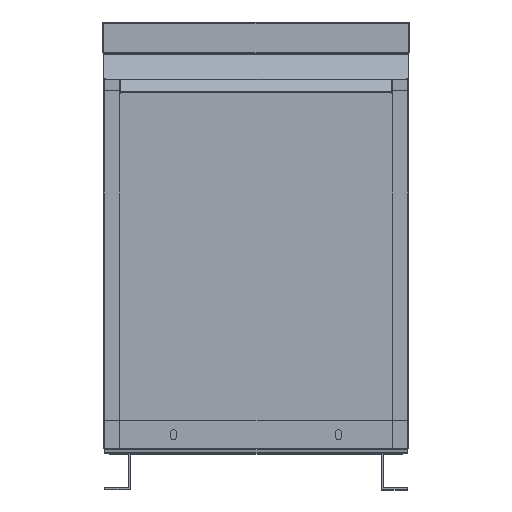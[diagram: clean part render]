
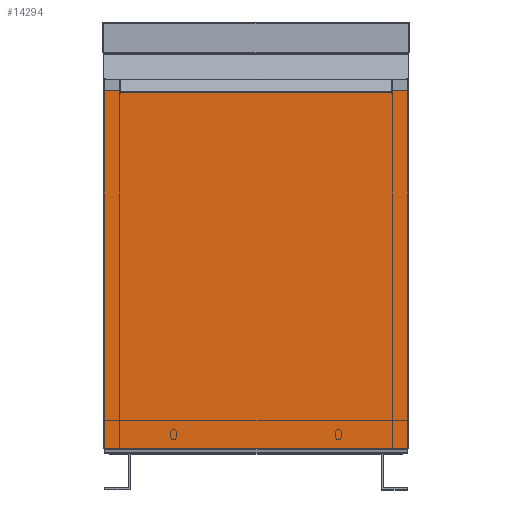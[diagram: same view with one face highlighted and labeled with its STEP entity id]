
A CAD part, top view. The second image highlights one B-rep face of the part: STEP entity #14294.
In plain terms, the highlighted planar face has unit normal (0, 0, 1).
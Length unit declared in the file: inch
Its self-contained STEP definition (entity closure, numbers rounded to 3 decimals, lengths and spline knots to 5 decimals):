
#111 = CARTESIAN_POINT ( 'NONE',  ( 1.165, 26., 0. ) ) ;
#208 = EDGE_CURVE ( 'NONE', #3748, #8722, #5929, .T. ) ;
#388 = CARTESIAN_POINT ( 'NONE',  ( 1.21, 0., 0. ) ) ;
#412 = ORIENTED_EDGE ( 'NONE', *, *, #208, .T. ) ;
#788 = DIRECTION ( 'NONE',  ( 0., 1., 0. ) ) ;
#840 = CARTESIAN_POINT ( 'NONE',  ( 0., 26., 0. ) ) ;
#916 = EDGE_CURVE ( 'NONE', #19650, #21255, #5464, .T. ) ;
#1800 = LINE ( 'NONE', #388, #3933 ) ;
#2226 = CARTESIAN_POINT ( 'NONE',  ( 20.99, 25.87272, 0. ) ) ;
#2668 = LINE ( 'NONE', #10352, #9523 ) ;
#2757 = EDGE_CURVE ( 'NONE', #12956, #21255, #1800, .T. ) ;
#3092 = CARTESIAN_POINT ( 'NONE',  ( 1.165, 0., 0. ) ) ;
#3439 = DIRECTION ( 'NONE',  ( 0., 1., 0. ) ) ;
#3486 = VECTOR ( 'NONE', #22483, 39.37008 ) ;
#3542 = CARTESIAN_POINT ( 'NONE',  ( 0., 0., 0. ) ) ;
#3748 = VERTEX_POINT ( 'NONE', #840 ) ;
#3876 = CARTESIAN_POINT ( 'NONE',  ( 0., 26., 0. ) ) ;
#3906 = DIRECTION ( 'NONE',  ( 0., -1., 0. ) ) ;
#3933 = VECTOR ( 'NONE', #3439, 39.37008 ) ;
#3937 = VERTEX_POINT ( 'NONE', #18974 ) ;
#4085 = FACE_OUTER_BOUND ( 'NONE', #6504, .T. ) ;
#4299 = AXIS2_PLACEMENT_3D ( 'NONE', #15431, #7867, #23114 ) ;
#4383 = ORIENTED_EDGE ( 'NONE', *, *, #7389, .F. ) ;
#4591 = CARTESIAN_POINT ( 'NONE',  ( 21.035, 26., 0. ) ) ;
#4828 = VECTOR ( 'NONE', #21983, 39.37008 ) ;
#4953 = DIRECTION ( 'NONE',  ( -1., 0., 0. ) ) ;
#5171 = ORIENTED_EDGE ( 'NONE', *, *, #10113, .F. ) ;
#5464 = LINE ( 'NONE', #13152, #3486 ) ;
#5714 = EDGE_CURVE ( 'NONE', #7359, #12956, #23336, .T. ) ;
#5836 = CARTESIAN_POINT ( 'NONE',  ( 22.2, 26., 0. ) ) ;
#5911 = CARTESIAN_POINT ( 'NONE',  ( 20.99, 0., 0. ) ) ;
#5929 = LINE ( 'NONE', #11341, #7053 ) ;
#6401 = ORIENTED_EDGE ( 'NONE', *, *, #24881, .T. ) ;
#6504 = EDGE_LOOP ( 'NONE', ( #14974, #4383, #5171, #20241, #24951, #21277, #13022, #13148, #412, #13449, #19388, #6401 ) ) ;
#6721 = CARTESIAN_POINT ( 'NONE',  ( 22.2, 0., 0. ) ) ;
#6737 = LINE ( 'NONE', #14435, #12539 ) ;
#6751 = LINE ( 'NONE', #18344, #16410 ) ;
#7053 = VECTOR ( 'NONE', #3906, 39.37008 ) ;
#7359 = VERTEX_POINT ( 'NONE', #14807 ) ;
#7389 = EDGE_CURVE ( 'NONE', #16274, #3937, #6737, .T. ) ;
#7867 = DIRECTION ( 'NONE',  ( 0., 0., -1. ) ) ;
#7904 = LINE ( 'NONE', #3876, #19774 ) ;
#7941 = VERTEX_POINT ( 'NONE', #111 ) ;
#8040 = LINE ( 'NONE', #5911, #13132 ) ;
#8056 = DIRECTION ( 'NONE',  ( 0., -1., 0. ) ) ;
#8371 = LINE ( 'NONE', #16066, #19093 ) ;
#8722 = VERTEX_POINT ( 'NONE', #3542 ) ;
#9523 = VECTOR ( 'NONE', #788, 39.37008 ) ;
#10075 = LINE ( 'NONE', #3092, #14867 ) ;
#10113 = EDGE_CURVE ( 'NONE', #19650, #16274, #8040, .T. ) ;
#10352 = CARTESIAN_POINT ( 'NONE',  ( 21.035, 0., 0. ) ) ;
#11113 = VERTEX_POINT ( 'NONE', #4591 ) ;
#11341 = CARTESIAN_POINT ( 'NONE',  ( 0., 0., 0. ) ) ;
#11564 = DIRECTION ( 'NONE',  ( -1., 0., 0. ) ) ;
#11892 = EDGE_CURVE ( 'NONE', #7941, #3748, #8371, .T. ) ;
#11978 = CARTESIAN_POINT ( 'NONE',  ( 0., 25.82772, 0. ) ) ;
#12071 = VERTEX_POINT ( 'NONE', #5836 ) ;
#12539 = VECTOR ( 'NONE', #20593, 39.37008 ) ;
#12619 = CARTESIAN_POINT ( 'NONE',  ( 1.21, 25.87272, 0. ) ) ;
#12956 = VERTEX_POINT ( 'NONE', #24140 ) ;
#13022 = ORIENTED_EDGE ( 'NONE', *, *, #23202, .F. ) ;
#13132 = VECTOR ( 'NONE', #13605, 39.37008 ) ;
#13148 = ORIENTED_EDGE ( 'NONE', *, *, #11892, .T. ) ;
#13152 = CARTESIAN_POINT ( 'NONE',  ( 1.21, 25.87272, 0. ) ) ;
#13266 = VERTEX_POINT ( 'NONE', #23980 ) ;
#13449 = ORIENTED_EDGE ( 'NONE', *, *, #21845, .T. ) ;
#13605 = DIRECTION ( 'NONE',  ( 0., -1., 0. ) ) ;
#14294 = ADVANCED_FACE ( 'NONE', ( #4085 ), #15692, .F. ) ;
#14435 = CARTESIAN_POINT ( 'NONE',  ( 0., 25.82772, 0. ) ) ;
#14807 = CARTESIAN_POINT ( 'NONE',  ( 1.165, 25.82772, 0. ) ) ;
#14867 = VECTOR ( 'NONE', #8056, 39.37008 ) ;
#14974 = ORIENTED_EDGE ( 'NONE', *, *, #20390, .F. ) ;
#15431 = CARTESIAN_POINT ( 'NONE',  ( 0., 0., 0. ) ) ;
#15692 = PLANE ( 'NONE',  #4299 ) ;
#16066 = CARTESIAN_POINT ( 'NONE',  ( 0., 26., 0. ) ) ;
#16182 = LINE ( 'NONE', #6721, #4828 ) ;
#16274 = VERTEX_POINT ( 'NONE', #18184 ) ;
#16410 = VECTOR ( 'NONE', #20735, 39.37008 ) ;
#18184 = CARTESIAN_POINT ( 'NONE',  ( 20.99, 25.82772, 0. ) ) ;
#18344 = CARTESIAN_POINT ( 'NONE',  ( 0., 0., 0. ) ) ;
#18974 = CARTESIAN_POINT ( 'NONE',  ( 21.035, 25.82772, 0. ) ) ;
#19093 = VECTOR ( 'NONE', #4953, 39.37008 ) ;
#19388 = ORIENTED_EDGE ( 'NONE', *, *, #23680, .T. ) ;
#19650 = VERTEX_POINT ( 'NONE', #2226 ) ;
#19774 = VECTOR ( 'NONE', #11564, 39.37008 ) ;
#20241 = ORIENTED_EDGE ( 'NONE', *, *, #916, .T. ) ;
#20390 = EDGE_CURVE ( 'NONE', #3937, #11113, #2668, .T. ) ;
#20593 = DIRECTION ( 'NONE',  ( 1., 0., 0. ) ) ;
#20735 = DIRECTION ( 'NONE',  ( 1., 0., 0. ) ) ;
#21255 = VERTEX_POINT ( 'NONE', #12619 ) ;
#21277 = ORIENTED_EDGE ( 'NONE', *, *, #5714, .F. ) ;
#21845 = EDGE_CURVE ( 'NONE', #8722, #13266, #6751, .T. ) ;
#21983 = DIRECTION ( 'NONE',  ( 0., 1., 0. ) ) ;
#22483 = DIRECTION ( 'NONE',  ( -1., 0., 0. ) ) ;
#22869 = VECTOR ( 'NONE', #23207, 39.37008 ) ;
#23114 = DIRECTION ( 'NONE',  ( -1., 0., 0. ) ) ;
#23202 = EDGE_CURVE ( 'NONE', #7941, #7359, #10075, .T. ) ;
#23207 = DIRECTION ( 'NONE',  ( 1., 0., 0. ) ) ;
#23336 = LINE ( 'NONE', #11978, #22869 ) ;
#23680 = EDGE_CURVE ( 'NONE', #13266, #12071, #16182, .T. ) ;
#23980 = CARTESIAN_POINT ( 'NONE',  ( 22.2, 0., 0. ) ) ;
#24140 = CARTESIAN_POINT ( 'NONE',  ( 1.21, 25.82772, 0. ) ) ;
#24881 = EDGE_CURVE ( 'NONE', #12071, #11113, #7904, .T. ) ;
#24951 = ORIENTED_EDGE ( 'NONE', *, *, #2757, .F. ) ;
